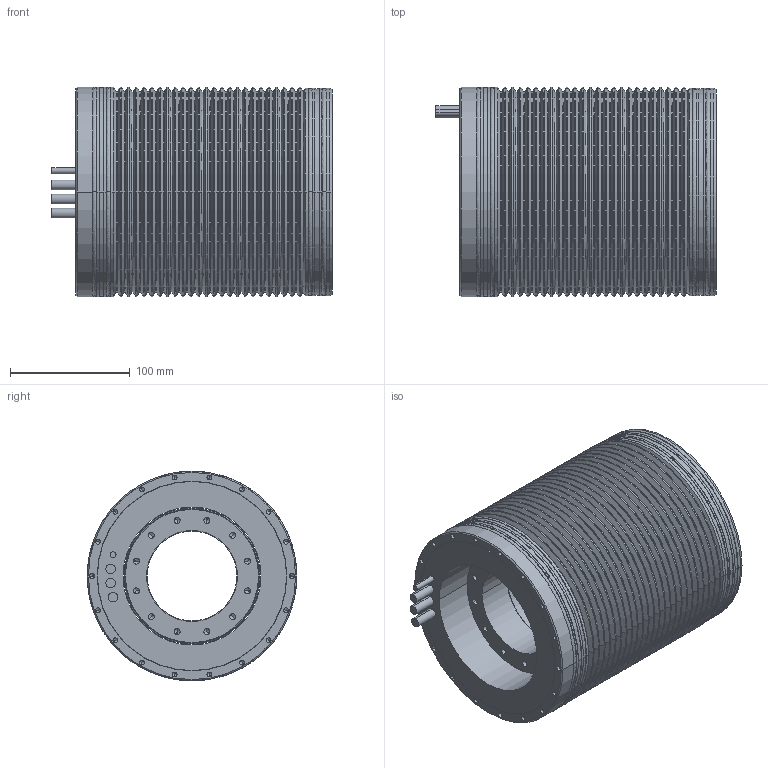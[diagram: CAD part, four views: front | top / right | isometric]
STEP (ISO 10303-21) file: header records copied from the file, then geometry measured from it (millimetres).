
FILE_DESCRIPTION((''),'2;1');
FILE_NAME('TK164-060','2017-10-26T',('stefanos'),(''),'CREO PARAMETRIC BY PTC INC, 2015480','CREO PARAMETRIC BY PTC INC, 2015480','');
FILE_SCHEMA(('CONFIG_CONTROL_DESIGN'));
Length unit declared in the file: millimetre
Products named in the file (1): TK164-060
Bounding box: 234 x 175 x 175 mm (x, y, z)
Volume: 3604101.7 mm3; surface area: 758508.2 mm2
Topology: 9 solids, 9 shells, 525 faces, 1134 edges, 604 vertices
Faces by surface type: cylinder 252, cone 204, plane 37, torus 16, revolution 16
Entity records: 14948 total; most frequent: CARTESIAN_POINT 3651, DIRECTION 2614, ORIENTED_EDGE 2100, AXIS2_PLACEMENT_3D 1071, EDGE_CURVE 1050, VERTEX_POINT 604, EDGE_LOOP 604, CIRCLE 562
